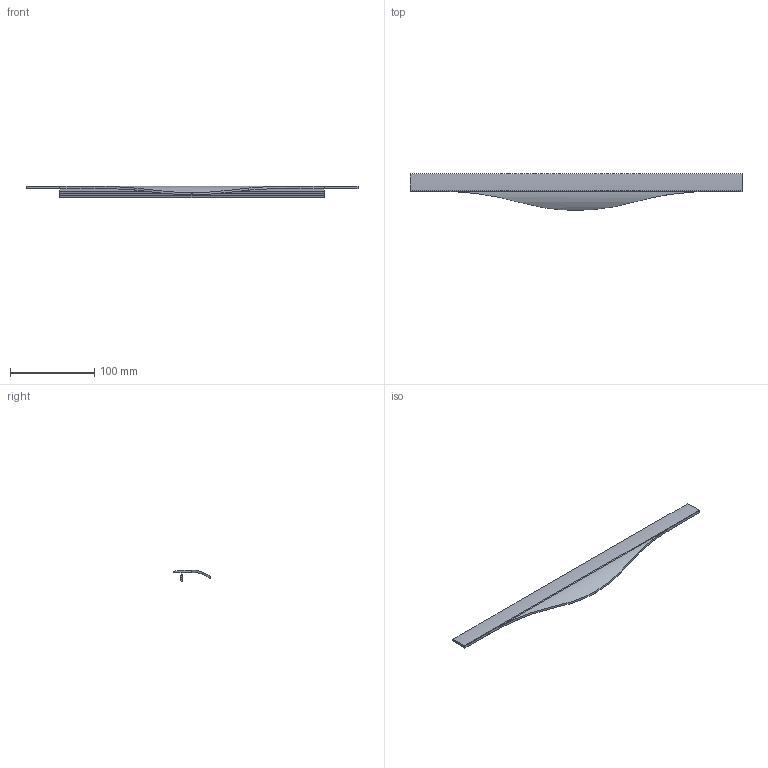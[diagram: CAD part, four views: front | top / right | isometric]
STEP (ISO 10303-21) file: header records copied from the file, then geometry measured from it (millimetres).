
FILE_DESCRIPTION( ( 'STEP AP214' ), '1' );
FILE_NAME( 'C:/Users/swati/Desktop/04-03-2016/9209996/9209996.stp', ' ', ( ' ' ), ( ' ' ), 'PSStep 15.0.47', 'PARTsolutions', ' ' );
FILE_SCHEMA( ( 'AUTOMOTIVE_DESIGN { 1 0 10303 214 1 1 1 1 }' ) );
Length unit declared in the file: millimetre
Products named in the file (2): 95 ; _
Assembly tree (1 placements, depth 2):
  95 
    _
Bounding box: 395 x 43.67 x 14 mm (x, y, z)
Volume: 37802.8 mm3; surface area: 34294.3 mm2
Topology: 1 solids, 1 shells, 32 faces, 87 edges, 58 vertices
Faces by surface type: plane 25, cylinder 7
Entity records: 1353 total; most frequent: CARTESIAN_POINT 257, ORIENTED_EDGE 174, DIRECTION 153, EDGE_CURVE 87, LINE 73, VECTOR 73, VERTEX_POINT 58, AXIS2_PLACEMENT_3D 40
